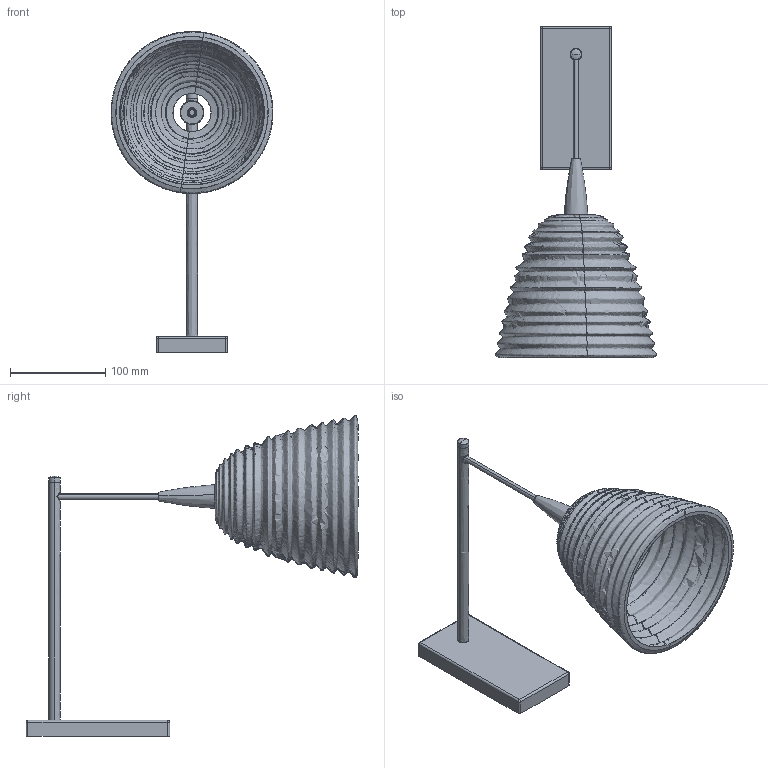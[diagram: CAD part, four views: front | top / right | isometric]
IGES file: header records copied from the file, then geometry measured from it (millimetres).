
Start section: SolidWorks IGES file using analytic representation for surfaces
Global section: file name: T:\01_EL TORRENT\01_LLUMINARIES\CITRIC\3D\CITRIC wall_CT.002.IGS; native system: SolidWorks 2013; preprocessor: SolidWorks 2013; author: joan; date: 181008.090936; units: millimetre
Bounding box: 170.19 x 348.79 x 337.1 mm (x, y, z)
Surface area: 229086.7 mm2 (no closed solid volume)
Topology: 0 solids, 0 shells, 88 faces, 1186 edges, 1184 vertices
Faces by surface type: bspline 49, revolution 39
